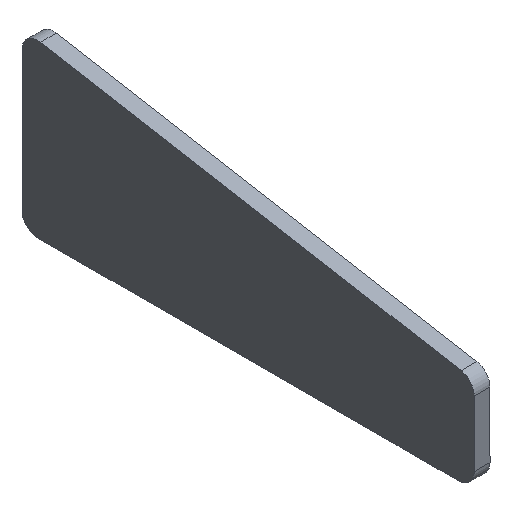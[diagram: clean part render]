
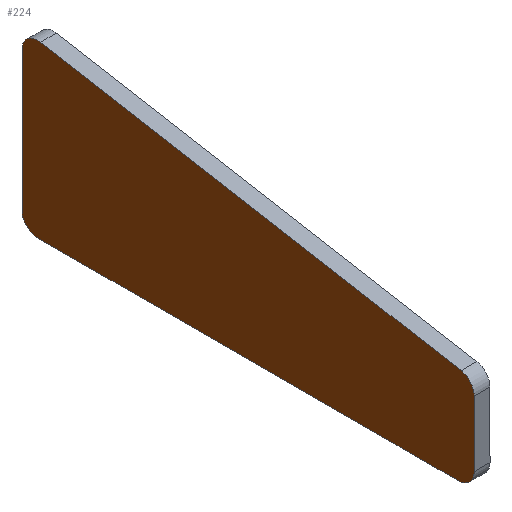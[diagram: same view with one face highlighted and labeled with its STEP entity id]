
A CAD part, isometric view. The second image highlights one B-rep face of the part: STEP entity #224.
In plain terms, the highlighted planar face has unit normal (-1, 0, 0).
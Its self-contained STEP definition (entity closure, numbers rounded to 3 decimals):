
#30=FACE_OUTER_BOUND('',#42,.T.);
#42=EDGE_LOOP('',(#195,#196,#197,#198,#199,#200,#201,#202,#203,#204));
#49=LINE('',#348,#71);
#52=LINE('',#353,#74);
#54=LINE('',#357,#76);
#57=LINE('',#365,#79);
#60=LINE('',#373,#82);
#63=LINE('',#381,#85);
#71=VECTOR('',#279,10.);
#74=VECTOR('',#284,10.);
#76=VECTOR('',#288,10.);
#79=VECTOR('',#297,10.);
#82=VECTOR('',#306,10.);
#85=VECTOR('',#315,10.);
#91=CIRCLE('',#248,5.);
#92=CIRCLE('',#251,5.);
#93=CIRCLE('',#254,5.);
#94=CIRCLE('',#257,5.);
#105=VERTEX_POINT('',#346);
#106=VERTEX_POINT('',#347);
#107=VERTEX_POINT('',#352);
#108=VERTEX_POINT('',#356);
#109=VERTEX_POINT('',#360);
#110=VERTEX_POINT('',#364);
#111=VERTEX_POINT('',#368);
#112=VERTEX_POINT('',#372);
#113=VERTEX_POINT('',#376);
#114=VERTEX_POINT('',#380);
#125=EDGE_CURVE('',#105,#106,#49,.T.);
#128=EDGE_CURVE('',#107,#106,#52,.T.);
#130=EDGE_CURVE('',#108,#107,#54,.T.);
#132=EDGE_CURVE('',#109,#108,#91,.T.);
#134=EDGE_CURVE('',#110,#109,#57,.T.);
#136=EDGE_CURVE('',#111,#110,#92,.T.);
#138=EDGE_CURVE('',#112,#111,#60,.T.);
#140=EDGE_CURVE('',#113,#112,#93,.T.);
#142=EDGE_CURVE('',#114,#113,#63,.T.);
#144=EDGE_CURVE('',#105,#114,#94,.T.);
#195=ORIENTED_EDGE('',*,*,#144,.F.);
#196=ORIENTED_EDGE('',*,*,#125,.T.);
#197=ORIENTED_EDGE('',*,*,#128,.F.);
#198=ORIENTED_EDGE('',*,*,#130,.F.);
#199=ORIENTED_EDGE('',*,*,#132,.F.);
#200=ORIENTED_EDGE('',*,*,#134,.F.);
#201=ORIENTED_EDGE('',*,*,#136,.F.);
#202=ORIENTED_EDGE('',*,*,#138,.F.);
#203=ORIENTED_EDGE('',*,*,#140,.F.);
#204=ORIENTED_EDGE('',*,*,#142,.F.);
#212=PLANE('',#258);
#224=ADVANCED_FACE('',(#30),#212,.F.);
#248=AXIS2_PLACEMENT_3D('',#361,#292,#293);
#251=AXIS2_PLACEMENT_3D('',#369,#301,#302);
#254=AXIS2_PLACEMENT_3D('',#377,#310,#311);
#257=AXIS2_PLACEMENT_3D('',#384,#319,#320);
#258=AXIS2_PLACEMENT_3D('',#385,#321,#322);
#279=DIRECTION('',(0.,-1.,0.));
#284=DIRECTION('',(0.,1.,0.));
#288=DIRECTION('',(0.,1.,0.));
#292=DIRECTION('center_axis',(1.,0.,0.));
#293=DIRECTION('ref_axis',(0.,-1.,0.));
#297=DIRECTION('',(0.,0.,-1.));
#301=DIRECTION('center_axis',(1.,0.,0.));
#302=DIRECTION('ref_axis',(0.,-0.174,0.985));
#306=DIRECTION('',(0.,-0.985,-0.174));
#310=DIRECTION('center_axis',(1.,0.,0.));
#311=DIRECTION('ref_axis',(0.,1.,0.));
#315=DIRECTION('',(0.,0.,1.));
#319=DIRECTION('center_axis',(1.,0.,0.));
#320=DIRECTION('ref_axis',(0.,0.,-1.));
#321=DIRECTION('center_axis',(1.,0.,0.));
#322=DIRECTION('ref_axis',(0.,1.,0.));
#346=CARTESIAN_POINT('',(132.,75.,0.));
#347=CARTESIAN_POINT('',(132.,-38.,0.));
#348=CARTESIAN_POINT('',(132.,75.,0.));
#352=CARTESIAN_POINT('',(132.,-39.797,0.));
#353=CARTESIAN_POINT('',(132.,-39.797,0.));
#356=CARTESIAN_POINT('',(132.,-57.797,0.));
#357=CARTESIAN_POINT('',(132.,-57.797,0.));
#360=CARTESIAN_POINT('',(132.,-62.797,5.));
#361=CARTESIAN_POINT('Origin',(132.,-57.797,5.));
#364=CARTESIAN_POINT('',(132.,-62.797,25.626));
#365=CARTESIAN_POINT('',(132.,-62.797,25.626));
#368=CARTESIAN_POINT('',(132.,-58.665,30.55));
#369=CARTESIAN_POINT('Origin',(132.,-57.797,25.626));
#372=CARTESIAN_POINT('',(132.,74.132,53.965));
#373=CARTESIAN_POINT('',(132.,74.132,53.965));
#376=CARTESIAN_POINT('',(132.,80.,49.041));
#377=CARTESIAN_POINT('Origin',(132.,75.,49.041));
#380=CARTESIAN_POINT('',(132.,80.,5.));
#381=CARTESIAN_POINT('',(132.,80.,5.));
#384=CARTESIAN_POINT('Origin',(132.,75.,5.));
#385=CARTESIAN_POINT('Origin',(132.,8.601,27.021));
